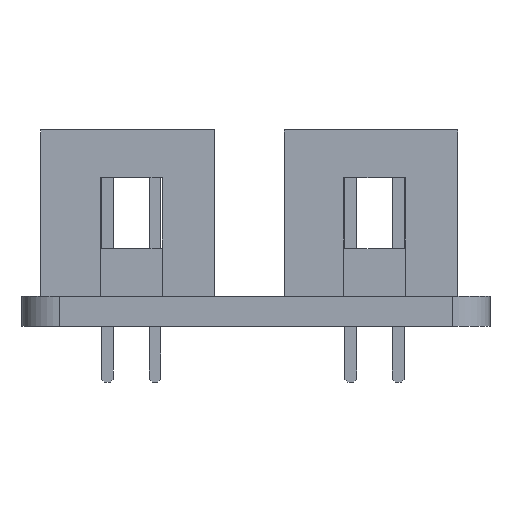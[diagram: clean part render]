
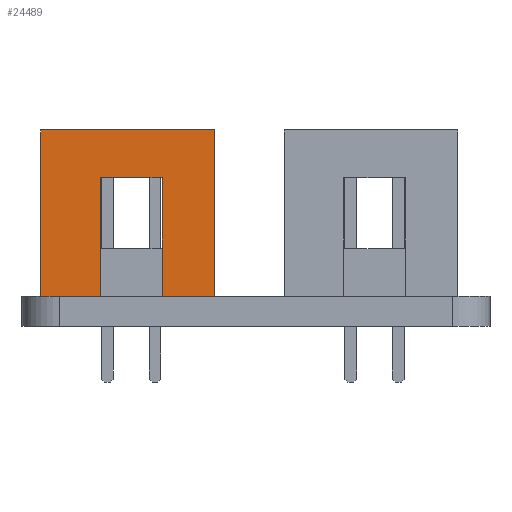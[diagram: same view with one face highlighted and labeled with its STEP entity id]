
A CAD part, left-side view. The second image highlights one B-rep face of the part: STEP entity #24489.
In plain terms, the highlighted planar face has unit normal (-1, 0, 0).
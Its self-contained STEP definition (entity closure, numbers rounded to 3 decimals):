
#617 = ORIENTED_EDGE ( 'NONE', *, *, #3010, .T. ) ;
#1379 = CARTESIAN_POINT ( 'NONE',  ( -16.51, 6.35, 1.651 ) ) ;
#1523 = VECTOR ( 'NONE', #11826, 1000. ) ;
#1795 = CARTESIAN_POINT ( 'NONE',  ( -16.51, 8.89, -4.826 ) ) ;
#2194 = ORIENTED_EDGE ( 'NONE', *, *, #12054, .F. ) ;
#2204 = DIRECTION ( 'NONE',  ( 0., 0., -1. ) ) ;
#2326 = CARTESIAN_POINT ( 'NONE',  ( -16.51, 0., 0. ) ) ;
#2585 = DIRECTION ( 'NONE',  ( 0., 0., -1. ) ) ;
#2589 = DIRECTION ( 'NONE',  ( 0., 0., 1. ) ) ;
#2639 = ORIENTED_EDGE ( 'NONE', *, *, #19166, .F. ) ;
#3010 = EDGE_CURVE ( 'NONE', #18030, #13561, #18387, .T. ) ;
#3274 = CARTESIAN_POINT ( 'NONE',  ( -16.51, 6.35, 0. ) ) ;
#3351 = VERTEX_POINT ( 'NONE', #4164 ) ;
#3740 = EDGE_LOOP ( 'NONE', ( #23252, #20070, #18926, #19372, #21717, #617, #2639, #2194 ) ) ;
#4164 = CARTESIAN_POINT ( 'NONE',  ( -16.51, 0., -1.651 ) ) ;
#4189 = AXIS2_PLACEMENT_3D ( 'NONE', #2326, #4418, #2204 ) ;
#4311 = CARTESIAN_POINT ( 'NONE',  ( -16.51, 0., 4.445 ) ) ;
#4418 = DIRECTION ( 'NONE',  ( 1., 0., 0. ) ) ;
#5221 = EDGE_CURVE ( 'NONE', #23434, #18030, #6995, .T. ) ;
#5907 = PLANE ( 'NONE',  #4189 ) ;
#6113 = EDGE_CURVE ( 'NONE', #23434, #3351, #17319, .T. ) ;
#6135 = CARTESIAN_POINT ( 'NONE',  ( -16.51, 0., 1.651 ) ) ;
#6297 = LINE ( 'NONE', #4311, #16733 ) ;
#6301 = LINE ( 'NONE', #23460, #12798 ) ;
#6521 = VERTEX_POINT ( 'NONE', #1795 ) ;
#6890 = CARTESIAN_POINT ( 'NONE',  ( -16.51, 6.35, -1.651 ) ) ;
#6995 = LINE ( 'NONE', #3274, #9122 ) ;
#7518 = CARTESIAN_POINT ( 'NONE',  ( -16.51, 6.35, -1.651 ) ) ;
#7540 = EDGE_CURVE ( 'NONE', #10340, #6521, #9501, .T. ) ;
#7784 = VERTEX_POINT ( 'NONE', #20187 ) ;
#8030 = LINE ( 'NONE', #23199, #10260 ) ;
#8271 = FACE_OUTER_BOUND ( 'NONE', #3740, .T. ) ;
#8687 = VERTEX_POINT ( 'NONE', #23309 ) ;
#9122 = VECTOR ( 'NONE', #22293, 1000. ) ;
#9501 = LINE ( 'NONE', #19318, #24288 ) ;
#10260 = VECTOR ( 'NONE', #13735, 1000. ) ;
#10340 = VERTEX_POINT ( 'NONE', #22915 ) ;
#10554 = LINE ( 'NONE', #16150, #18409 ) ;
#11826 = DIRECTION ( 'NONE',  ( 0., -1., 0. ) ) ;
#12054 = EDGE_CURVE ( 'NONE', #8687, #7784, #8030, .T. ) ;
#12798 = VECTOR ( 'NONE', #2589, 1000. ) ;
#13561 = VERTEX_POINT ( 'NONE', #6135 ) ;
#13735 = DIRECTION ( 'NONE',  ( 0., -1., 0. ) ) ;
#16150 = CARTESIAN_POINT ( 'NONE',  ( -16.51, 0., 4.445 ) ) ;
#16272 = DIRECTION ( 'NONE',  ( 0., 0., -1. ) ) ;
#16658 = EDGE_CURVE ( 'NONE', #3351, #10340, #6297, .T. ) ;
#16699 = VECTOR ( 'NONE', #21180, 1000. ) ;
#16733 = VECTOR ( 'NONE', #2585, 1000. ) ;
#17087 = DIRECTION ( 'NONE',  ( 0., 1., 0. ) ) ;
#17319 = LINE ( 'NONE', #7518, #16699 ) ;
#17829 = EDGE_CURVE ( 'NONE', #6521, #8687, #6301, .T. ) ;
#18030 = VERTEX_POINT ( 'NONE', #22214 ) ;
#18387 = LINE ( 'NONE', #1379, #1523 ) ;
#18409 = VECTOR ( 'NONE', #16272, 1000. ) ;
#18926 = ORIENTED_EDGE ( 'NONE', *, *, #16658, .F. ) ;
#19166 = EDGE_CURVE ( 'NONE', #7784, #13561, #10554, .T. ) ;
#19318 = CARTESIAN_POINT ( 'NONE',  ( -16.51, 0., -4.826 ) ) ;
#19372 = ORIENTED_EDGE ( 'NONE', *, *, #6113, .F. ) ;
#20070 = ORIENTED_EDGE ( 'NONE', *, *, #7540, .F. ) ;
#20187 = CARTESIAN_POINT ( 'NONE',  ( -16.51, 0., 4.445 ) ) ;
#21180 = DIRECTION ( 'NONE',  ( 0., -1., 0. ) ) ;
#21717 = ORIENTED_EDGE ( 'NONE', *, *, #5221, .T. ) ;
#22214 = CARTESIAN_POINT ( 'NONE',  ( -16.51, 6.35, 1.651 ) ) ;
#22293 = DIRECTION ( 'NONE',  ( 0., 0., 1. ) ) ;
#22915 = CARTESIAN_POINT ( 'NONE',  ( -16.51, 0., -4.826 ) ) ;
#23199 = CARTESIAN_POINT ( 'NONE',  ( -16.51, 8.89, 4.445 ) ) ;
#23252 = ORIENTED_EDGE ( 'NONE', *, *, #17829, .F. ) ;
#23309 = CARTESIAN_POINT ( 'NONE',  ( -16.51, 8.89, 4.445 ) ) ;
#23434 = VERTEX_POINT ( 'NONE', #6890 ) ;
#23460 = CARTESIAN_POINT ( 'NONE',  ( -16.51, 8.89, -4.826 ) ) ;
#24288 = VECTOR ( 'NONE', #17087, 1000. ) ;
#24489 = ADVANCED_FACE ( 'NONE', ( #8271 ), #5907, .F. ) ;
